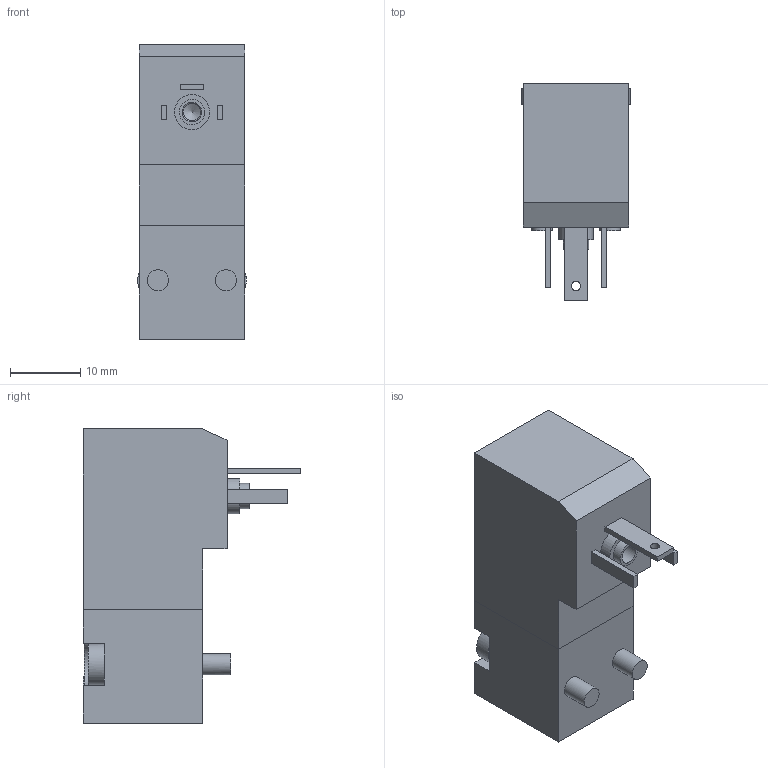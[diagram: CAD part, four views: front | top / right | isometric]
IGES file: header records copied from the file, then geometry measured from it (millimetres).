
Global section: file name: N3##_R1#-8; native system: Autodesk Inventor 2014; preprocessor: unknown; author: A. Manieri; organization: Pneumax S.p.A.; date: 20160908.141651; units: millimetre
Bounding box: 15.5 x 31 x 42 mm (x, y, z)
Volume: 11602 mm3; surface area: 3943.2 mm2
Topology: 1 solids, 1 shells, 97 faces, 243 edges, 160 vertices
Faces by surface type: bspline 97
